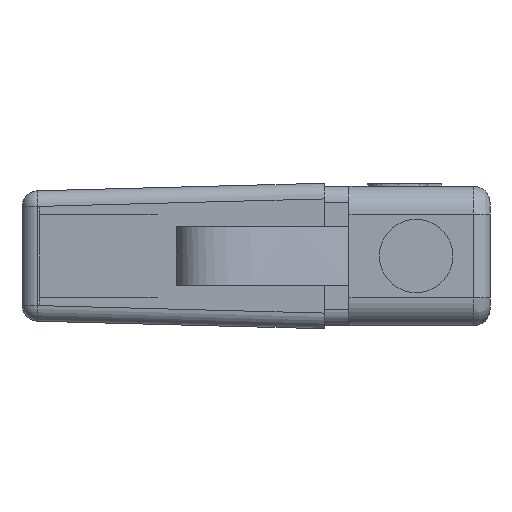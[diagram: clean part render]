
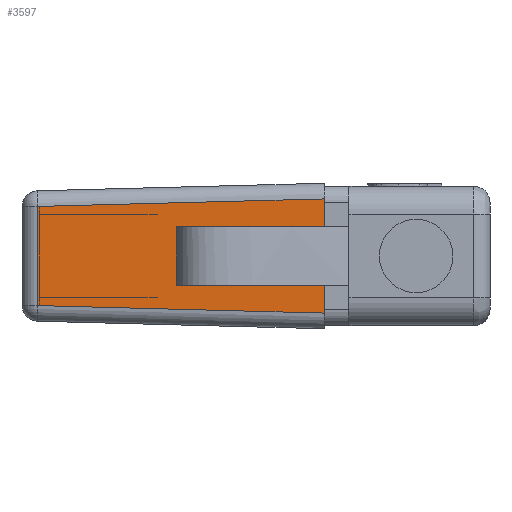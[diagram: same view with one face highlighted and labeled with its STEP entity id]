
A CAD part, left-side view. The second image highlights one B-rep face of the part: STEP entity #3597.
In plain terms, the highlighted planar face has unit normal (-1, 0.026, 0).
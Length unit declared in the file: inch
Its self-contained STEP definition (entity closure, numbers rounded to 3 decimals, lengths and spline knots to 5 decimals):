
#29=FACE_BOUND('',#1147,.T.);
#137=PLANE('',#3857);
#235=LINE('',#4870,#577);
#237=LINE('',#5096,#579);
#238=LINE('',#5118,#580);
#240=LINE('',#5132,#582);
#244=LINE('',#5158,#586);
#251=LINE('',#5188,#593);
#254=LINE('',#5193,#596);
#280=LINE('',#5274,#622);
#577=VECTOR('',#4018,0.3937);
#579=VECTOR('',#4020,0.3937);
#580=VECTOR('',#4021,0.3937);
#582=VECTOR('',#4025,0.3937);
#586=VECTOR('',#4053,0.3937);
#593=VECTOR('',#4086,0.3937);
#596=VECTOR('',#4093,0.3937);
#622=VECTOR('',#4181,0.3937);
#941=FACE_OUTER_BOUND('',#1146,.T.);
#1146=EDGE_LOOP('',(#2618,#2619,#2620,#2621));
#1147=EDGE_LOOP('',(#2622,#2623,#2624,#2625));
#1550=VERTEX_POINT('',#4781);
#1553=VERTEX_POINT('',#4795);
#1555=VERTEX_POINT('',#5021);
#1556=VERTEX_POINT('',#5117);
#1565=VERTEX_POINT('',#5151);
#1567=VERTEX_POINT('',#5156);
#1573=VERTEX_POINT('',#5177);
#1576=VERTEX_POINT('',#5184);
#1911=EDGE_CURVE('',#1550,#1553,#235,.T.);
#1914=EDGE_CURVE('',#1553,#1555,#237,.T.);
#1915=EDGE_CURVE('',#1556,#1550,#238,.T.);
#1918=EDGE_CURVE('',#1555,#1556,#240,.T.);
#1930=EDGE_CURVE('',#1567,#1565,#244,.T.);
#1945=EDGE_CURVE('',#1573,#1576,#251,.T.);
#1948=EDGE_CURVE('',#1565,#1573,#254,.T.);
#1990=EDGE_CURVE('',#1567,#1576,#280,.T.);
#2618=ORIENTED_EDGE('',*,*,#1930,.F.);
#2619=ORIENTED_EDGE('',*,*,#1990,.T.);
#2620=ORIENTED_EDGE('',*,*,#1945,.F.);
#2621=ORIENTED_EDGE('',*,*,#1948,.F.);
#2622=ORIENTED_EDGE('',*,*,#1911,.T.);
#2623=ORIENTED_EDGE('',*,*,#1914,.T.);
#2624=ORIENTED_EDGE('',*,*,#1918,.T.);
#2625=ORIENTED_EDGE('',*,*,#1915,.T.);
#3597=ADVANCED_FACE('',(#941,#29),#137,.T.);
#3857=AXIS2_PLACEMENT_3D('',#5289,#4193,#4194);
#4018=DIRECTION('',(0.026,1.,0.));
#4020=DIRECTION('',(0.,0.,1.));
#4021=DIRECTION('',(0.,0.,-1.));
#4025=DIRECTION('',(-0.026,-1.,0.));
#4053=DIRECTION('',(0.026,0.999,0.026));
#4086=DIRECTION('',(-0.026,-0.999,0.026));
#4093=DIRECTION('',(0.,0.,1.));
#4181=DIRECTION('',(0.,0.,1.));
#4193=DIRECTION('center_axis',(-1.,0.026,0.));
#4194=DIRECTION('ref_axis',(0.,0.,1.));
#4781=CARTESIAN_POINT('',(-0.87448,0.92193,-0.13));
#4795=CARTESIAN_POINT('',(-0.87238,1.00216,-0.13));
#4870=CARTESIAN_POINT('',(-0.87603,0.86256,-0.13));
#5021=CARTESIAN_POINT('',(-0.87238,1.00216,0.13));
#5096=CARTESIAN_POINT('',(-0.87238,1.00216,0.));
#5117=CARTESIAN_POINT('',(-0.87448,0.92193,0.13));
#5118=CARTESIAN_POINT('',(-0.87448,0.92193,0.));
#5132=CARTESIAN_POINT('',(-0.87603,0.86256,0.13));
#5151=CARTESIAN_POINT('',(-0.84643,1.99283,-0.22146));
#5156=CARTESIAN_POINT('',(-0.88,0.711,-0.25502));
#5158=CARTESIAN_POINT('',(-0.87983,0.71767,-0.25485));
#5177=CARTESIAN_POINT('',(-0.84643,1.99283,0.22146));
#5184=CARTESIAN_POINT('',(-0.88,0.711,0.25502));
#5188=CARTESIAN_POINT('',(-0.87945,0.73218,0.25447));
#5193=CARTESIAN_POINT('',(-0.84643,1.99283,0.1625));
#5274=CARTESIAN_POINT('',(-0.88,0.711,-0.325));
#5289=CARTESIAN_POINT('Origin',(-0.88,0.711,0.325));
